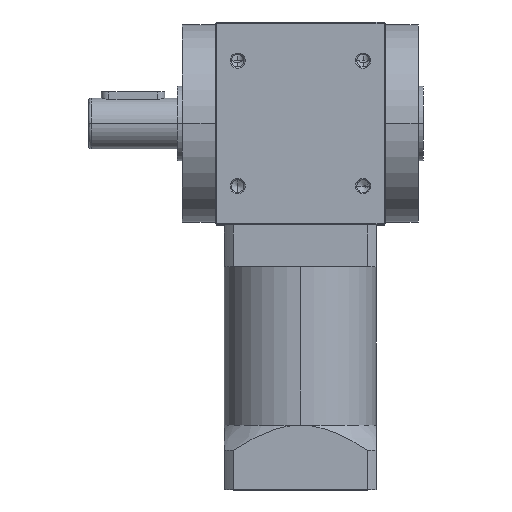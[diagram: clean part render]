
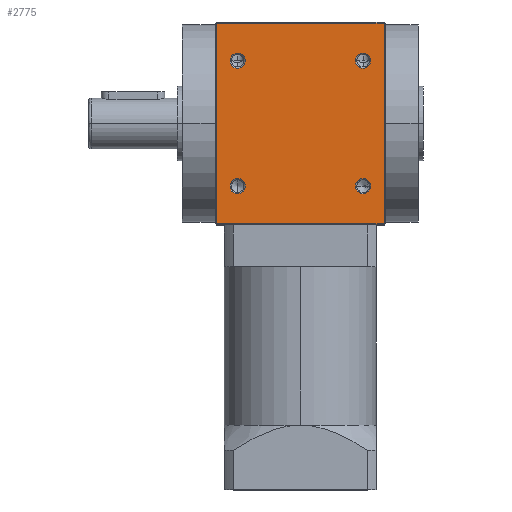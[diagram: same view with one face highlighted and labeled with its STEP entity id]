
A CAD part, top view. The second image highlights one B-rep face of the part: STEP entity #2775.
In plain terms, the highlighted planar face has unit normal (0, 0, 1).
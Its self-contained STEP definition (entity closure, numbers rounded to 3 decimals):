
#82 = EDGE_CURVE ( 'NONE', #5663, #7666, #503, .T. ) ;
#141 = DIRECTION ( 'NONE',  ( 1., 0., 0. ) ) ;
#274 = DIRECTION ( 'NONE',  ( 0., -1., 0. ) ) ;
#503 = CIRCLE ( 'NONE', #9936, 3. ) ;
#616 = CARTESIAN_POINT ( 'NONE',  ( 27.75, -24.75, 40. ) ) ;
#647 = CARTESIAN_POINT ( 'NONE',  ( -33., 39.5, 40. ) ) ;
#762 = DIRECTION ( 'NONE',  ( 1., 0., 0. ) ) ;
#801 = CARTESIAN_POINT ( 'NONE',  ( -27.75, -24.75, 40. ) ) ;
#850 = DIRECTION ( 'NONE',  ( 0., 1., 0. ) ) ;
#881 = VECTOR ( 'NONE', #2973, 1000. ) ;
#998 = AXIS2_PLACEMENT_3D ( 'NONE', #6598, #6562, #6530 ) ;
#1018 = CARTESIAN_POINT ( 'NONE',  ( -24.75, -24.75, 40. ) ) ;
#1083 = AXIS2_PLACEMENT_3D ( 'NONE', #10365, #5598, #762 ) ;
#1258 = CARTESIAN_POINT ( 'NONE',  ( 21.75, -24.75, 40. ) ) ;
#1348 = DIRECTION ( 'NONE',  ( 0., 0., 1. ) ) ;
#1454 = CARTESIAN_POINT ( 'NONE',  ( 21.75, 24.75, 40. ) ) ;
#1522 = AXIS2_PLACEMENT_3D ( 'NONE', #2126, #7832, #2926 ) ;
#1705 = EDGE_CURVE ( 'NONE', #8266, #7450, #6116, .T. ) ;
#1773 = DIRECTION ( 'NONE',  ( 1., 0., 0. ) ) ;
#1843 = CARTESIAN_POINT ( 'NONE',  ( 27.75, 24.75, 40. ) ) ;
#2008 = CARTESIAN_POINT ( 'NONE',  ( 33., 39.5, 40. ) ) ;
#2126 = CARTESIAN_POINT ( 'NONE',  ( 24.75, -24.75, 40. ) ) ;
#2194 = CARTESIAN_POINT ( 'NONE',  ( 33.5, 39.5, 40. ) ) ;
#2293 = VERTEX_POINT ( 'NONE', #647 ) ;
#2357 = CIRCLE ( 'NONE', #998, 3. ) ;
#2613 = CARTESIAN_POINT ( 'NONE',  ( -27.75, 24.75, 40. ) ) ;
#2646 = EDGE_CURVE ( 'NONE', #7369, #6040, #2357, .T. ) ;
#2737 = VERTEX_POINT ( 'NONE', #1454 ) ;
#2738 = CARTESIAN_POINT ( 'NONE',  ( -21.75, -24.75, 40. ) ) ;
#2775 = ADVANCED_FACE ( 'NONE', ( #7060, #7333, #7255, #7309, #8295 ), #5754, .F. ) ;
#2845 = CARTESIAN_POINT ( 'NONE',  ( 33.5, -39.5, 40. ) ) ;
#2926 = DIRECTION ( 'NONE',  ( 1., 0., 0. ) ) ;
#2973 = DIRECTION ( 'NONE',  ( -1., 0., 0. ) ) ;
#3240 = VERTEX_POINT ( 'NONE', #616 ) ;
#3294 = DIRECTION ( 'NONE',  ( 1., 0., 0. ) ) ;
#3336 = DIRECTION ( 'NONE',  ( 0., 0., 1. ) ) ;
#3361 = CARTESIAN_POINT ( 'NONE',  ( -24.75, 24.75, 40. ) ) ;
#3512 = EDGE_CURVE ( 'NONE', #5668, #2737, #8005, .T. ) ;
#3595 = EDGE_CURVE ( 'NONE', #8266, #2293, #4361, .T. ) ;
#3979 = ORIENTED_EDGE ( 'NONE', *, *, #82, .F. ) ;
#3995 = ORIENTED_EDGE ( 'NONE', *, *, #3512, .F. ) ;
#4027 = ORIENTED_EDGE ( 'NONE', *, *, #3595, .T. ) ;
#4069 = EDGE_CURVE ( 'NONE', #4854, #2293, #5683, .T. ) ;
#4183 = ORIENTED_EDGE ( 'NONE', *, *, #1705, .F. ) ;
#4282 = EDGE_CURVE ( 'NONE', #6040, #7369, #8730, .T. ) ;
#4361 = LINE ( 'NONE', #2194, #881 ) ;
#4641 = ORIENTED_EDGE ( 'NONE', *, *, #2646, .F. ) ;
#4849 = CARTESIAN_POINT ( 'NONE',  ( -33., 40., 40. ) ) ;
#4854 = VERTEX_POINT ( 'NONE', #10249 ) ;
#4948 = DIRECTION ( 'NONE',  ( 0., 0., 1. ) ) ;
#5087 = ORIENTED_EDGE ( 'NONE', *, *, #4282, .F. ) ;
#5478 = ORIENTED_EDGE ( 'NONE', *, *, #4069, .F. ) ;
#5546 = EDGE_CURVE ( 'NONE', #7450, #4854, #6351, .T. ) ;
#5598 = DIRECTION ( 'NONE',  ( 0., 0., 1. ) ) ;
#5639 = AXIS2_PLACEMENT_3D ( 'NONE', #6206, #1348, #7021 ) ;
#5663 = VERTEX_POINT ( 'NONE', #2613 ) ;
#5668 = VERTEX_POINT ( 'NONE', #1843 ) ;
#5683 = LINE ( 'NONE', #4849, #6014 ) ;
#5689 = CARTESIAN_POINT ( 'NONE',  ( 33.5, 40., 40. ) ) ;
#5754 = PLANE ( 'NONE',  #7204 ) ;
#5757 = CIRCLE ( 'NONE', #1522, 3. ) ;
#5956 = VECTOR ( 'NONE', #274, 1000. ) ;
#6014 = VECTOR ( 'NONE', #850, 1000. ) ;
#6040 = VERTEX_POINT ( 'NONE', #801 ) ;
#6107 = CARTESIAN_POINT ( 'NONE',  ( 33., -39.5, 40. ) ) ;
#6116 = LINE ( 'NONE', #9671, #5956 ) ;
#6144 = EDGE_CURVE ( 'NONE', #8274, #3240, #6230, .T. ) ;
#6206 = CARTESIAN_POINT ( 'NONE',  ( -24.75, 24.75, 40. ) ) ;
#6230 = CIRCLE ( 'NONE', #7109, 3. ) ;
#6351 = LINE ( 'NONE', #2845, #8847 ) ;
#6362 = ORIENTED_EDGE ( 'NONE', *, *, #6767, .F. ) ;
#6530 = DIRECTION ( 'NONE',  ( 1., 0., 0. ) ) ;
#6562 = DIRECTION ( 'NONE',  ( 0., 0., 1. ) ) ;
#6598 = CARTESIAN_POINT ( 'NONE',  ( -24.75, -24.75, 40. ) ) ;
#6666 = DIRECTION ( 'NONE',  ( 0., 0., 1. ) ) ;
#6767 = EDGE_CURVE ( 'NONE', #2737, #5668, #7703, .T. ) ;
#7021 = DIRECTION ( 'NONE',  ( 1., 0., 0. ) ) ;
#7060 = FACE_OUTER_BOUND ( 'NONE', #7382, .T. ) ;
#7109 = AXIS2_PLACEMENT_3D ( 'NONE', #9761, #4948, #141 ) ;
#7204 = AXIS2_PLACEMENT_3D ( 'NONE', #5689, #8032, #8610 ) ;
#7255 = FACE_BOUND ( 'NONE', #7370, .T. ) ;
#7270 = EDGE_LOOP ( 'NONE', ( #8851, #3979 ) ) ;
#7279 = AXIS2_PLACEMENT_3D ( 'NONE', #8407, #7677, #7642 ) ;
#7293 = EDGE_LOOP ( 'NONE', ( #7975, #8549 ) ) ;
#7309 = FACE_BOUND ( 'NONE', #7293, .T. ) ;
#7333 = FACE_BOUND ( 'NONE', #7270, .T. ) ;
#7369 = VERTEX_POINT ( 'NONE', #2738 ) ;
#7370 = EDGE_LOOP ( 'NONE', ( #3995, #6362 ) ) ;
#7382 = EDGE_LOOP ( 'NONE', ( #5478, #10129, #4183, #4027 ) ) ;
#7414 = EDGE_LOOP ( 'NONE', ( #4641, #5087 ) ) ;
#7450 = VERTEX_POINT ( 'NONE', #6107 ) ;
#7642 = DIRECTION ( 'NONE',  ( 1., 0., 0. ) ) ;
#7666 = VERTEX_POINT ( 'NONE', #8780 ) ;
#7677 = DIRECTION ( 'NONE',  ( 0., 0., 1. ) ) ;
#7703 = CIRCLE ( 'NONE', #1083, 3. ) ;
#7832 = DIRECTION ( 'NONE',  ( 0., 0., 1. ) ) ;
#7975 = ORIENTED_EDGE ( 'NONE', *, *, #9206, .F. ) ;
#8005 = CIRCLE ( 'NONE', #7279, 3. ) ;
#8032 = DIRECTION ( 'NONE',  ( 0., 0., -1. ) ) ;
#8209 = CIRCLE ( 'NONE', #5639, 3. ) ;
#8266 = VERTEX_POINT ( 'NONE', #2008 ) ;
#8274 = VERTEX_POINT ( 'NONE', #1258 ) ;
#8295 = FACE_BOUND ( 'NONE', #7414, .T. ) ;
#8346 = EDGE_CURVE ( 'NONE', #7666, #5663, #8209, .T. ) ;
#8407 = CARTESIAN_POINT ( 'NONE',  ( 24.75, 24.75, 40. ) ) ;
#8549 = ORIENTED_EDGE ( 'NONE', *, *, #6144, .F. ) ;
#8610 = DIRECTION ( 'NONE',  ( -1., 0., 0. ) ) ;
#8730 = CIRCLE ( 'NONE', #9877, 3. ) ;
#8780 = CARTESIAN_POINT ( 'NONE',  ( -21.75, 24.75, 40. ) ) ;
#8847 = VECTOR ( 'NONE', #10141, 1000. ) ;
#8851 = ORIENTED_EDGE ( 'NONE', *, *, #8346, .F. ) ;
#9206 = EDGE_CURVE ( 'NONE', #3240, #8274, #5757, .T. ) ;
#9671 = CARTESIAN_POINT ( 'NONE',  ( 33., 40., 40. ) ) ;
#9761 = CARTESIAN_POINT ( 'NONE',  ( 24.75, -24.75, 40. ) ) ;
#9877 = AXIS2_PLACEMENT_3D ( 'NONE', #1018, #6666, #1773 ) ;
#9936 = AXIS2_PLACEMENT_3D ( 'NONE', #3361, #3336, #3294 ) ;
#10129 = ORIENTED_EDGE ( 'NONE', *, *, #5546, .F. ) ;
#10141 = DIRECTION ( 'NONE',  ( -1., 0., 0. ) ) ;
#10249 = CARTESIAN_POINT ( 'NONE',  ( -33., -39.5, 40. ) ) ;
#10365 = CARTESIAN_POINT ( 'NONE',  ( 24.75, 24.75, 40. ) ) ;
